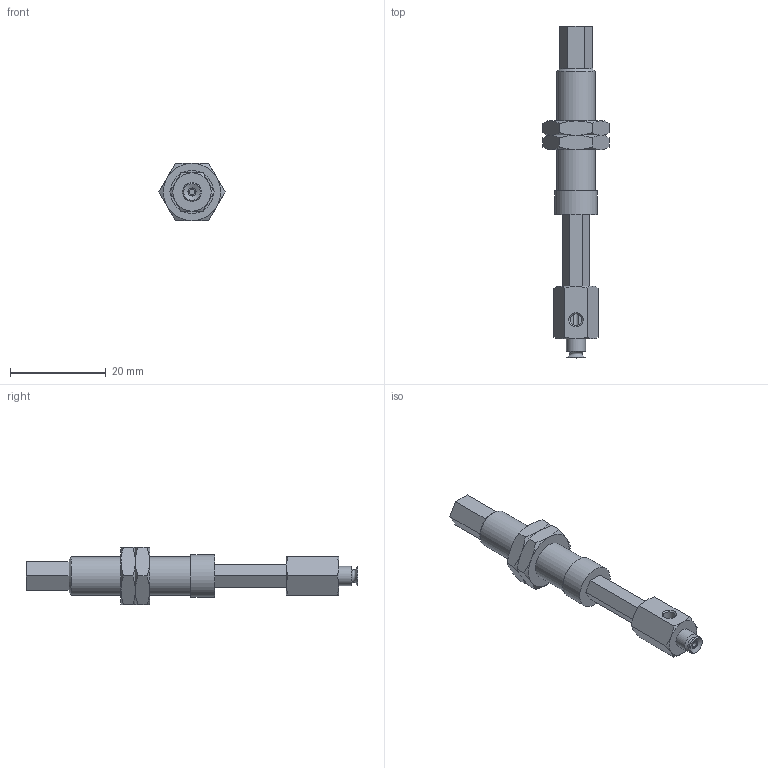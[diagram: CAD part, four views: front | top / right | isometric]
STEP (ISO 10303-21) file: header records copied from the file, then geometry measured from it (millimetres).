
FILE_DESCRIPTION(('STEP AP203'),'1');
FILE_NAME('.stp','2025-04-10T02:36:20',(' '),(' '),'Spatial InterOp 3D',' ',' ');
FILE_SCHEMA(('CONFIG_CONTROL_DESIGN'));
Length unit declared in the file: millimetre
Products named in the file (6): BNABPFYH-3.5A-15-※; CONNECTOR-H-3.5A-15; Nut-3.5A-15-h; NAPFTH-3.5A-15-FBODY; NAPFTH-3.5A-15-MBODY; BPFG-3.5A-※
Assembly tree (6 placements, depth 2):
  BNABPFYH-3.5A-15-※
    CONNECTOR-H-3.5A-15
    Nut-3.5A-15-h  x2
    NAPFTH-3.5A-15-FBODY
    NAPFTH-3.5A-15-MBODY
    BPFG-3.5A-※
Bounding box: 13.86 x 69.5 x 12 mm (x, y, z)
Volume: 3221.9 mm3; surface area: 3876.8 mm2
Topology: 6 solids, 6 shells, 137 faces, 298 edges, 181 vertices
Faces by surface type: plane 64, cone 51, cylinder 14, torus 7, bspline 1
Full cylindrical faces by diameter (mm): 1.2 x2, 2 x2, 2.459 x2, 3 x3, 4 x1, 7.188 x2, 8 x1, 9 x1
Entity records: 3443 total; most frequent: CARTESIAN_POINT 848, DIRECTION 468, ORIENTED_EDGE 422, EDGE_CURVE 211, AXIS2_PLACEMENT_3D 191, EDGE_LOOP 164, VERTEX_POINT 147, FACE_OUTER_BOUND 135
